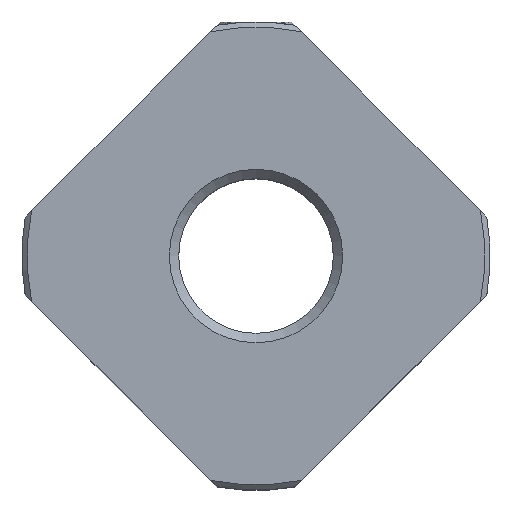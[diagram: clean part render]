
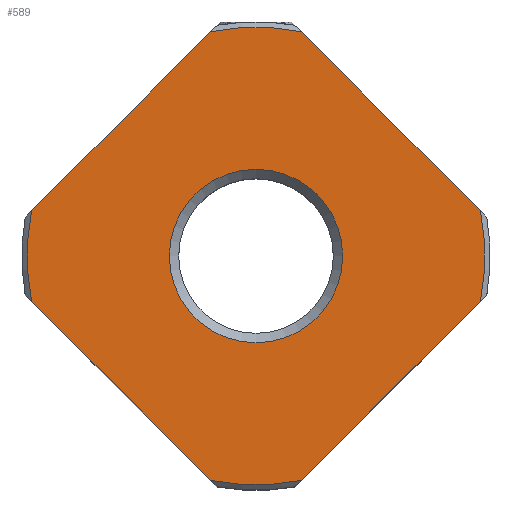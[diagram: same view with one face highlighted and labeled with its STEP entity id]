
A CAD part, top view. The second image highlights one B-rep face of the part: STEP entity #589.
In plain terms, the highlighted planar face has unit normal (0, 0, 1).
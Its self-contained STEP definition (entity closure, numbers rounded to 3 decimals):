
#32=PLANE('',#647);
#52=LINE('',#923,#88);
#53=LINE('',#927,#89);
#54=LINE('',#931,#90);
#55=LINE('',#935,#91);
#88=VECTOR('',#735,1000.);
#89=VECTOR('',#738,1000.);
#90=VECTOR('',#741,1000.);
#91=VECTOR('',#744,1000.);
#159=ORIENTED_EDGE('',*,*,#322,.F.);
#160=ORIENTED_EDGE('',*,*,#323,.T.);
#161=ORIENTED_EDGE('',*,*,#324,.F.);
#162=ORIENTED_EDGE('',*,*,#325,.T.);
#163=ORIENTED_EDGE('',*,*,#326,.F.);
#164=ORIENTED_EDGE('',*,*,#327,.T.);
#165=ORIENTED_EDGE('',*,*,#328,.F.);
#166=ORIENTED_EDGE('',*,*,#329,.T.);
#167=ORIENTED_EDGE('',*,*,#330,.T.);
#322=EDGE_CURVE('',#403,#404,#455,.T.);
#323=EDGE_CURVE('',#403,#405,#52,.T.);
#324=EDGE_CURVE('',#406,#405,#456,.T.);
#325=EDGE_CURVE('',#406,#407,#53,.T.);
#326=EDGE_CURVE('',#408,#407,#457,.T.);
#327=EDGE_CURVE('',#408,#409,#54,.T.);
#328=EDGE_CURVE('',#410,#409,#458,.T.);
#329=EDGE_CURVE('',#410,#404,#55,.T.);
#330=EDGE_CURVE('',#411,#411,#459,.T.);
#403=VERTEX_POINT('',#921);
#404=VERTEX_POINT('',#922);
#405=VERTEX_POINT('',#924);
#406=VERTEX_POINT('',#926);
#407=VERTEX_POINT('',#928);
#408=VERTEX_POINT('',#930);
#409=VERTEX_POINT('',#932);
#410=VERTEX_POINT('',#934);
#411=VERTEX_POINT('',#937);
#455=CIRCLE('',#648,6.6);
#456=CIRCLE('',#649,6.6);
#457=CIRCLE('',#650,6.6);
#458=CIRCLE('',#651,6.6);
#459=CIRCLE('',#652,2.5);
#484=EDGE_LOOP('',(#159,#160,#161,#162,#163,#164,#165,#166));
#485=EDGE_LOOP('',(#167));
#534=FACE_BOUND('',#484,.T.);
#535=FACE_BOUND('',#485,.T.);
#589=ADVANCED_FACE('',(#534,#535),#32,.F.);
#647=AXIS2_PLACEMENT_3D('',#919,#731,#732);
#648=AXIS2_PLACEMENT_3D('',#920,#733,#734);
#649=AXIS2_PLACEMENT_3D('',#925,#736,#737);
#650=AXIS2_PLACEMENT_3D('',#929,#739,#740);
#651=AXIS2_PLACEMENT_3D('',#933,#742,#743);
#652=AXIS2_PLACEMENT_3D('',#936,#745,#746);
#731=DIRECTION('',(0.,0.,-1.));
#732=DIRECTION('',(-1.,0.,0.));
#733=DIRECTION('',(0.,0.,-1.));
#734=DIRECTION('',(-1.,0.,0.));
#735=DIRECTION('',(-0.707,-0.707,0.));
#736=DIRECTION('',(0.,0.,-1.));
#737=DIRECTION('',(-1.,0.,0.));
#738=DIRECTION('',(0.707,-0.707,0.));
#739=DIRECTION('',(0.,0.,-1.));
#740=DIRECTION('',(-1.,0.,0.));
#741=DIRECTION('',(0.707,0.707,0.));
#742=DIRECTION('',(0.,0.,-1.));
#743=DIRECTION('',(-1.,0.,0.));
#744=DIRECTION('',(-0.707,0.707,0.));
#745=DIRECTION('',(0.,0.,-1.));
#746=DIRECTION('',(-1.,0.,0.));
#919=CARTESIAN_POINT('',(0.,0.,5.));
#920=CARTESIAN_POINT('',(0.,0.,5.));
#921=CARTESIAN_POINT('',(-1.309,6.469,5.));
#922=CARTESIAN_POINT('',(1.309,6.469,5.));
#923=CARTESIAN_POINT('',(0.,7.778,5.));
#924=CARTESIAN_POINT('',(-6.469,1.309,5.));
#925=CARTESIAN_POINT('',(0.,0.,5.));
#926=CARTESIAN_POINT('',(-6.469,-1.309,5.));
#927=CARTESIAN_POINT('',(-7.778,0.,5.));
#928=CARTESIAN_POINT('',(-1.309,-6.469,5.));
#929=CARTESIAN_POINT('',(0.,0.,5.));
#930=CARTESIAN_POINT('',(1.309,-6.469,5.));
#931=CARTESIAN_POINT('',(0.,-7.778,5.));
#932=CARTESIAN_POINT('',(6.469,-1.309,5.));
#933=CARTESIAN_POINT('',(0.,0.,5.));
#934=CARTESIAN_POINT('',(6.469,1.309,5.));
#935=CARTESIAN_POINT('',(7.778,0.,5.));
#936=CARTESIAN_POINT('',(0.,0.,5.));
#937=CARTESIAN_POINT('',(-2.5,0.,5.));
